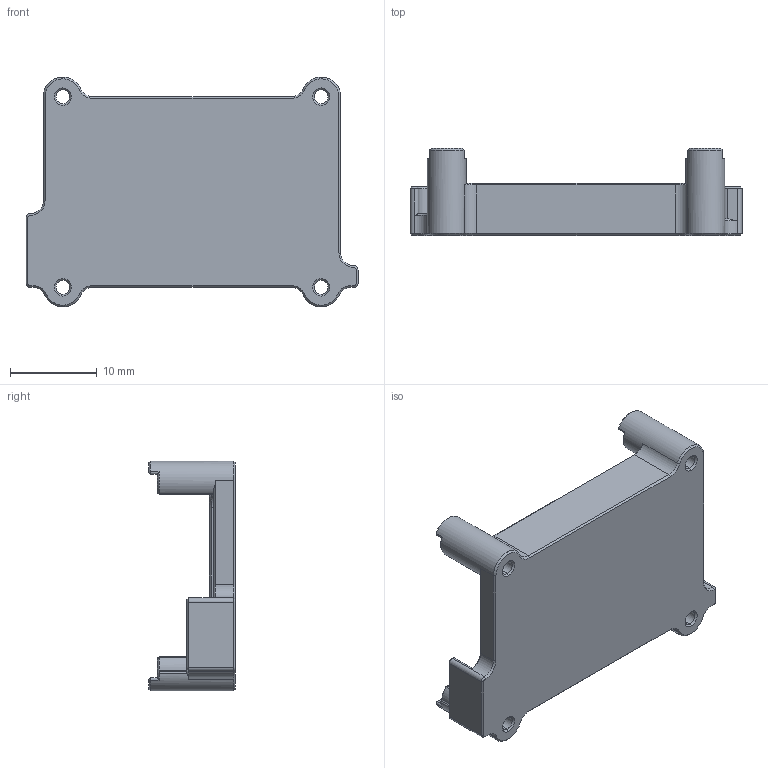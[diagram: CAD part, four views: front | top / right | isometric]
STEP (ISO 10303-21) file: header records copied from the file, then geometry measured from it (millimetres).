
FILE_DESCRIPTION (( 'STEP AP203' ), '1' );
FILE_NAME ('i056A-M1(THERMALPAD_2MM).STEP', '2023-01-20T08:57:06', ( '' ), ( '' ), 'SwSTEP 2.0', 'SolidWorks 2022', '' );
FILE_SCHEMA (( 'CONFIG_CONTROL_DESIGN' ));
Length unit declared in the file: millimetre
Products named in the file (1): i056A-M1(THERMALPAD_2MM)
Bounding box: 38.3 x 10 x 26.5 mm (x, y, z)
Volume: 2709.5 mm3; surface area: 2855 mm2
Topology: 1 solids, 1 shells, 243 faces, 604 edges, 334 vertices
Faces by surface type: cone 102, plane 73, cylinder 68
Entity records: 7048 total; most frequent: CARTESIAN_POINT 1300, DIRECTION 1261, ORIENTED_EDGE 1158, EDGE_CURVE 579, AXIS2_PLACEMENT_3D 473, VERTEX_POINT 334, LINE 315, VECTOR 315
